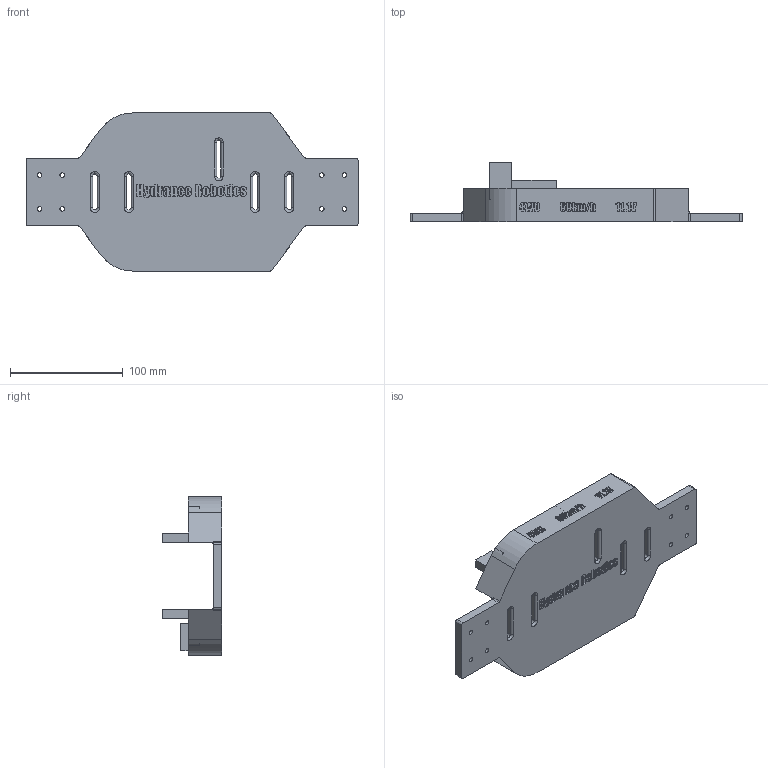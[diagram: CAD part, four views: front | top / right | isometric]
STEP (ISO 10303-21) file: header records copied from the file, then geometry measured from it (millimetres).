
FILE_DESCRIPTION (( 'STEP AP203' ), '1' );
FILE_NAME ('Frame.STEP', '2026-01-17T21:10:59', ( '' ), ( '' ), 'SwSTEP 2.0', 'SolidWorks 2026', '' );
FILE_SCHEMA (( 'CONFIG_CONTROL_DESIGN' ));
Length unit declared in the file: millimetre
Products named in the file (1): Frame
Bounding box: 294 x 52.5 x 140 mm (x, y, z)
Volume: 288813.3 mm3; surface area: 101694.3 mm2
Topology: 1 solids, 1 shells, 599 faces, 1586 edges, 1042 vertices
Faces by surface type: plane 338, bspline 147, cylinder 96, torus 18
Entity records: 26865 total; most frequent: CARTESIAN_POINT 12759, ORIENTED_EDGE 3172, DIRECTION 2370, EDGE_CURVE 1586, LINE 1088, VECTOR 1088, VERTEX_POINT 1042, EDGE_LOOP 680
